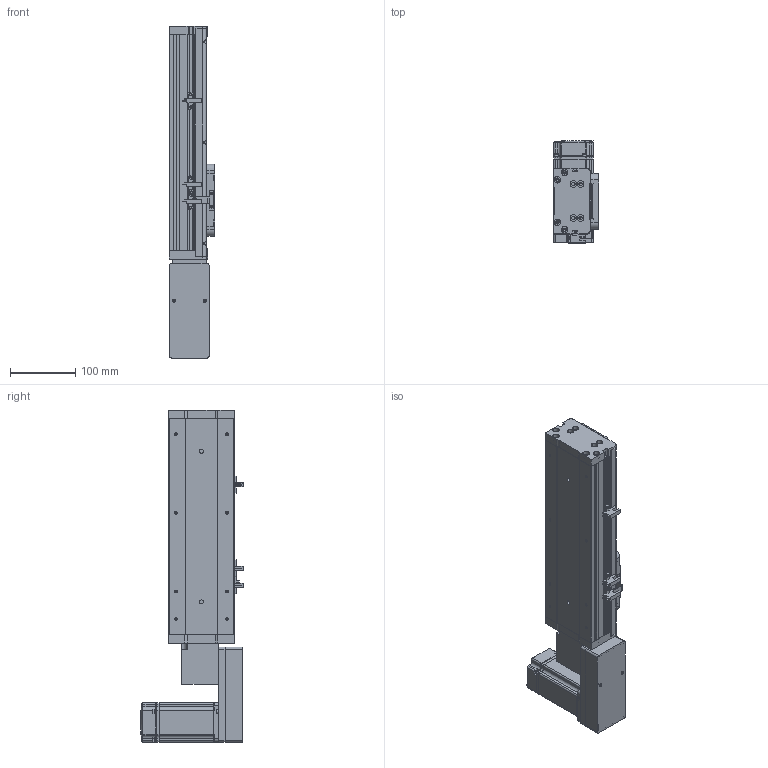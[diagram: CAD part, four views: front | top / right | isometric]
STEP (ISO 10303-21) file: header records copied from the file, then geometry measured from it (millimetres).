
FILE_DESCRIPTION (( 'STEP AP214' ), '1' );
FILE_NAME ('KSD100B-S150-MRB-CR.STEP', '2019-11-13T05:50:04', ( '微软用户' ), ( '微软中国' ), 'SwSTEP 2.0', 'SolidWorks 2014', '' );
FILE_SCHEMA (( 'AUTOMOTIVE_DESIGN' ));
Length unit declared in the file: millimetre
Products named in the file (15): MHMD042G1CA_2_03; 悵誘欶奻狟殏; 100宽马达安装板连板上下折丝杆同步带; U倰嫖萇EEㄜSX672; 感应片100宽全封闭; 100宽马达安装板同步带右; 100遵鎮湛假蚾啣蜊; 100宽端板同步带全封闭; 100宽滚珠螺姆安装板1防护罩; 100宽滚珠螺姆安装板1; 100遵裔啣揤啣; 100遵裔啣150俴最; 100宽侧板150行程同步带; 100宽底板全封闭150行程同步带; KSD100B-S150-MRB-CR
Assembly tree (18 placements, depth 2):
  KSD100B-S150-MRB-CR
    100宽底板全封闭150行程同步带
    100宽侧板150行程同步带  x2
    100遵裔啣150俴最
    100遵裔啣揤啣  x2
    100宽滚珠螺姆安装板1
    100宽滚珠螺姆安装板1防护罩
    100宽端板同步带全封闭
    100遵鎮湛假蚾啣蜊
    100宽马达安装板同步带右
    感应片100宽全封闭
    U倰嫖萇EEㄜSX672  x3
    100宽马达安装板连板上下折丝杆同步带
    悵誘欶奻狟殏
    MHMD042G1CA_2_03
Bounding box: 70 x 156.2 x 507 mm (x, y, z)
Volume: 989125.3 mm3; surface area: 472756.5 mm2
Topology: 17 solids, 18 shells, 1597 faces, 4444 edges, 2889 vertices
Faces by surface type: plane 729, cylinder 697, cone 151, bspline 20
Entity records: 56412 total; most frequent: CARTESIAN_POINT 8460, DIRECTION 7704, ORIENTED_EDGE 7160, EDGE_CURVE 3652, AXIS2_PLACEMENT_3D 2747, VERTEX_POINT 2427, VECTOR 2210, LINE 2210
